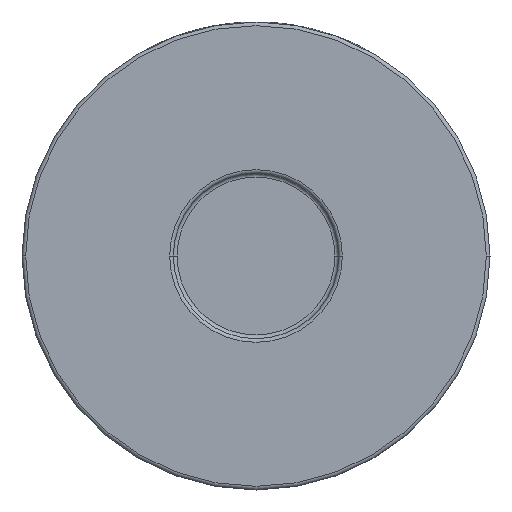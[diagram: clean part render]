
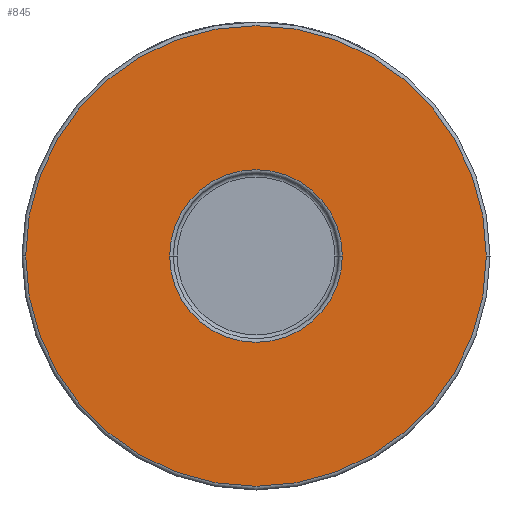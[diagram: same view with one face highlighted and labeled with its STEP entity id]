
A CAD part, front view. The second image highlights one B-rep face of the part: STEP entity #845.
In plain terms, the highlighted planar face has unit normal (0, -1, 0).
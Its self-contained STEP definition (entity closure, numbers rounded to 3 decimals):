
#185 = FACE_OUTER_BOUND ( 'NONE', #3030, .T. ) ;
#243 = EDGE_CURVE ( 'NONE', #2219, #2570, #3184, .T. ) ;
#329 = EDGE_CURVE ( 'NONE', #2570, #2219, #741, .T. ) ;
#361 = DIRECTION ( 'NONE',  ( 0., -1., 0. ) ) ;
#440 = VERTEX_POINT ( 'NONE', #4170 ) ;
#563 = DIRECTION ( 'NONE',  ( 0., 1., 0. ) ) ;
#706 = CIRCLE ( 'NONE', #3424, 63. ) ;
#715 = EDGE_CURVE ( 'NONE', #905, #440, #3840, .T. ) ;
#720 = AXIS2_PLACEMENT_3D ( 'NONE', #2805, #938, #2418 ) ;
#741 = CIRCLE ( 'NONE', #2057, 23.6 ) ;
#743 = CARTESIAN_POINT ( 'NONE',  ( -23.6, -45., 0. ) ) ;
#845 = ADVANCED_FACE ( 'NONE', ( #1648, #185 ), #2825, .T. ) ;
#905 = VERTEX_POINT ( 'NONE', #2324 ) ;
#938 = DIRECTION ( 'NONE',  ( 0., -1., 0. ) ) ;
#949 = CARTESIAN_POINT ( 'NONE',  ( 0., -45., 0. ) ) ;
#1098 = AXIS2_PLACEMENT_3D ( 'NONE', #949, #563, #2862 ) ;
#1111 = ORIENTED_EDGE ( 'NONE', *, *, #715, .T. ) ;
#1348 = ORIENTED_EDGE ( 'NONE', *, *, #329, .T. ) ;
#1407 = DIRECTION ( 'NONE',  ( 1., 0., 0. ) ) ;
#1432 = DIRECTION ( 'NONE',  ( 0., 1., 0. ) ) ;
#1648 = FACE_BOUND ( 'NONE', #2625, .T. ) ;
#1668 = DIRECTION ( 'NONE',  ( 1., 0., 0. ) ) ;
#1795 = CARTESIAN_POINT ( 'NONE',  ( 0., -45., 0. ) ) ;
#1840 = DIRECTION ( 'NONE',  ( 1., 0., 0. ) ) ;
#2033 = CARTESIAN_POINT ( 'NONE',  ( 0., -45., 0. ) ) ;
#2057 = AXIS2_PLACEMENT_3D ( 'NONE', #1795, #1432, #1407 ) ;
#2203 = CARTESIAN_POINT ( 'NONE',  ( 23.6, -45., 0. ) ) ;
#2219 = VERTEX_POINT ( 'NONE', #2203 ) ;
#2282 = CARTESIAN_POINT ( 'NONE',  ( 0., -45., 0. ) ) ;
#2324 = CARTESIAN_POINT ( 'NONE',  ( -63., -45., 0. ) ) ;
#2418 = DIRECTION ( 'NONE',  ( 1., 0., 0. ) ) ;
#2570 = VERTEX_POINT ( 'NONE', #743 ) ;
#2625 = EDGE_LOOP ( 'NONE', ( #2658, #1348 ) ) ;
#2658 = ORIENTED_EDGE ( 'NONE', *, *, #243, .T. ) ;
#2805 = CARTESIAN_POINT ( 'NONE',  ( 64., -45., 0. ) ) ;
#2825 = PLANE ( 'NONE',  #720 ) ;
#2862 = DIRECTION ( 'NONE',  ( 1., 0., 0. ) ) ;
#3030 = EDGE_LOOP ( 'NONE', ( #4032, #1111 ) ) ;
#3068 = EDGE_CURVE ( 'NONE', #440, #905, #706, .T. ) ;
#3184 = CIRCLE ( 'NONE', #1098, 23.6 ) ;
#3424 = AXIS2_PLACEMENT_3D ( 'NONE', #2282, #361, #1840 ) ;
#3519 = DIRECTION ( 'NONE',  ( 0., -1., 0. ) ) ;
#3840 = CIRCLE ( 'NONE', #4460, 63. ) ;
#4032 = ORIENTED_EDGE ( 'NONE', *, *, #3068, .T. ) ;
#4170 = CARTESIAN_POINT ( 'NONE',  ( 63., -45., 0. ) ) ;
#4460 = AXIS2_PLACEMENT_3D ( 'NONE', #2033, #3519, #1668 ) ;
